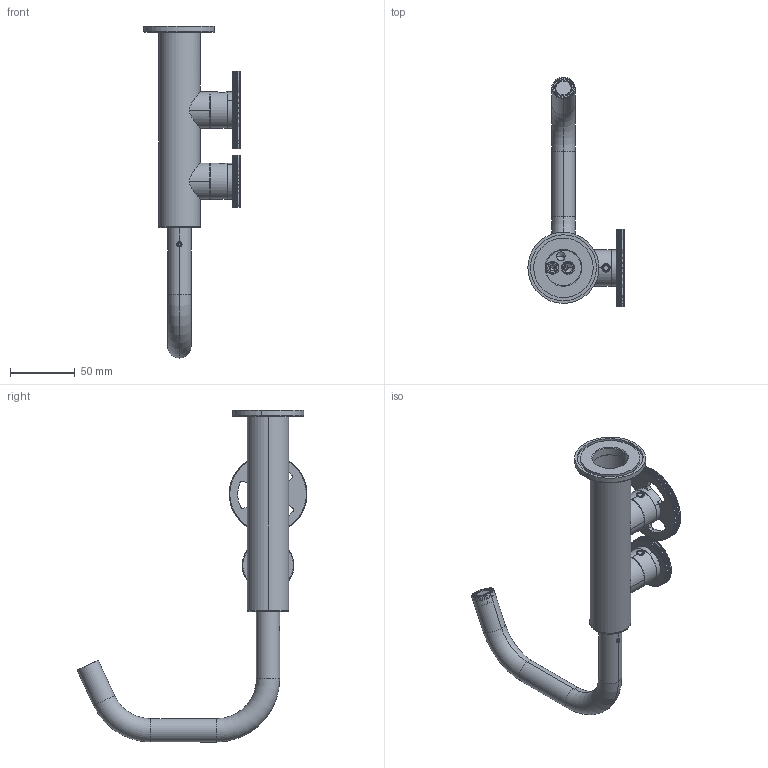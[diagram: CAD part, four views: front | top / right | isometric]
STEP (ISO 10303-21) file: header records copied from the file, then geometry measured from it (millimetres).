
FILE_DESCRIPTION (( 'STEP AP203' ), '1' );
FILE_NAME ('TIB1C.STEP', '2019-10-25T07:43:38', ( '' ), ( '' ), 'SwSTEP 2.0', 'SolidWorks 2019', '' );
FILE_SCHEMA (( 'CONFIG_CONTROL_DESIGN' ));
Length unit declared in the file: millimetre
Products named in the file (23): GRANCO M5x4 ACCIAIO; AS541_01; AS549_00; EU0029_1; EU0824_ZA; TIB1C; OR1077262ACS; C12.00.0017; AS542_01; TAPPHITO01; EU0648_1; C24.1464.00.1; EU1473_2; VITOCER006; EU1565_0; EU1463_1; GRANCO M4x4 ACCIAIO; EU1568_0; C24.1474.00.1; EU1566_0; AERA161INC; EU0649_0; EU1567_0
Assembly tree (32 placements, depth 3):
  TIB1C
    AS549_00
      EU1565_0
      EU1566_0  x2
      EU1567_0  x2
      C12.00.0017  x2
    VITOCER006  x2
    EU1473_2
    EU0029_1
    EU0648_1
    EU0649_0  x2
    OR1077262ACS  x2
    GRANCO M4x4 ACCIAIO
    GRANCO M5x4 ACCIAIO  x2
    TAPPHITO01  x2
    EU0824_ZA
    AS541_01
      C24.1474.00.1
      EU1463_1
    AS542_01
      C24.1474.00.1
      C24.1464.00.1
    EU1568_0  x2
    AERA161INC
Bounding box: 74.44 x 177.69 x 256.77 mm (x, y, z)
Volume: 168370.5 mm3; surface area: 102115.7 mm2
Topology: 29 solids, 29 shells, 2818 faces, 8114 edges, 5412 vertices
Faces by surface type: plane 1640, cylinder 904, cone 194, torus 68, bspline 12
Entity records: 71658 total; most frequent: CARTESIAN_POINT 14370, ORIENTED_EDGE 11722, DIRECTION 11374, EDGE_CURVE 5861, AXIS2_PLACEMENT_3D 3891, VERTEX_POINT 3891, VECTOR 3592, LINE 3592
